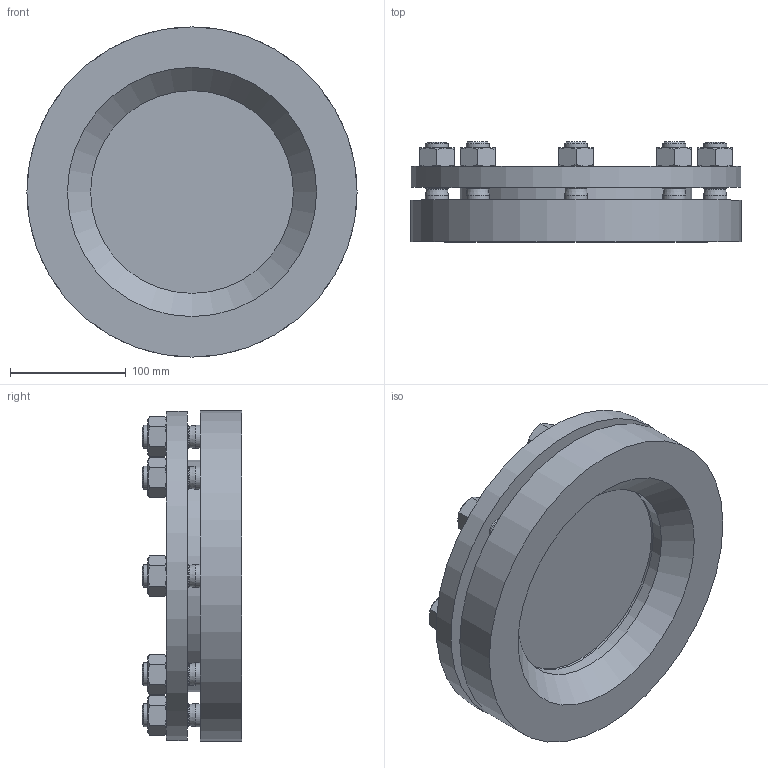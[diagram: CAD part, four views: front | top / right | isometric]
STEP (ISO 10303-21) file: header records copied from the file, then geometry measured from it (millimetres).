
FILE_DESCRIPTION(/* description */ ('Unknown'),/* implementation_level */ '2;1');
FILE_NAME(/* name */ 'Armatur 28120 DN 150 PN6',/* time_stamp */ '2016-08-08T10:15:49+02:00',/* author */ ('Unknown'),/* organization */ ('Unknown'),/* preprocessor_version */ 'ST-DEVELOPER v16.7',/* originating_system */ 'DEX',/* authorisation */ $);
FILE_SCHEMA (('AUTOMOTIVE_DESIGN {1 0 10303 214 3 1 1}'));
Length unit declared in the file: millimetre
Products named in the file (7): 0206.055.38_01; 1346.005.38_01; 0863.179.38_01; 1775.015.38_01; 1345.005.38_01; Nut_DIN_934_1987_M20_v10.50; Stud_DIN_938_1995_CC_M20x50_v12.00
Assembly tree (21 placements, depth 2):
  0206.055.38_01
    1346.005.38_01
    0863.179.38_01  x2
    1775.015.38_01
    1345.005.38_01
    Nut_DIN_934_1987_M20_v10.50  x8
    Stud_DIN_938_1995_CC_M20x50_v12.00  x8
Bounding box: 285 x 86 x 285 mm (x, y, z)
Volume: 2704535.1 mm3; surface area: 421275.4 mm2
Topology: 21 solids, 21 shells, 243 faces, 505 edges, 306 vertices
Faces by surface type: plane 92, cone 92, cylinder 59
Full cylindrical faces by diameter (mm): 17.294 x16, 20 x24, 22 x8, 175 x4, 200 x1, 202 x2, 203 x2, 285 x2
Entity records: 2598 total; most frequent: CARTESIAN_POINT 647, DIRECTION 332, ORIENTED_EDGE 176, AXIS2_PLACEMENT_3D 163, FACE_BOUND 156, EDGE_LOOP 148, VERTEX_POINT 90, EDGE_CURVE 88
